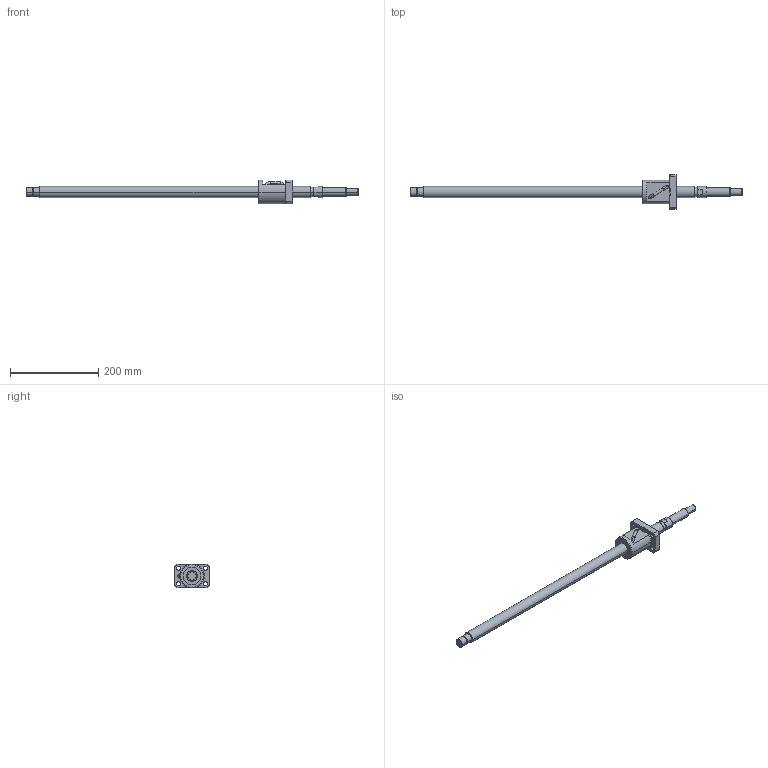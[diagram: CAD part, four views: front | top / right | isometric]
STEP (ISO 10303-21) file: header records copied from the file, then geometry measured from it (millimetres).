
FILE_DESCRIPTION (( 'STEP AP214' ), '1' );
FILE_NAME ('BS2525A-3D.STEP', '2014-03-07T20:48:30', ( '' ), ( '' ), 'SwSTEP 2.0', 'SolidWorks 2012', '' );
FILE_SCHEMA (( 'AUTOMOTIVE_DESIGN' ));
Length unit declared in the file: millimetre
Products named in the file (3): BS2525Aナット; BS2525AŽ²; BS2525A-3D
Assembly tree (2 placements, depth 2):
  BS2525A-3D
    BS2525AŽ²
    BS2525Aナット
Bounding box: 751 x 78 x 54 mm (x, y, z)
Volume: 482703.9 mm3; surface area: 90820.4 mm2
Topology: 2 solids, 2 shells, 154 faces, 390 edges, 250 vertices
Faces by surface type: cylinder 72, plane 42, cone 34, torus 4, bspline 2
Entity records: 5958 total; most frequent: CARTESIAN_POINT 1987, DIRECTION 822, ORIENTED_EDGE 776, EDGE_CURVE 388, AXIS2_PLACEMENT_3D 341, VERTEX_POINT 250, EDGE_LOOP 186, CIRCLE 184
